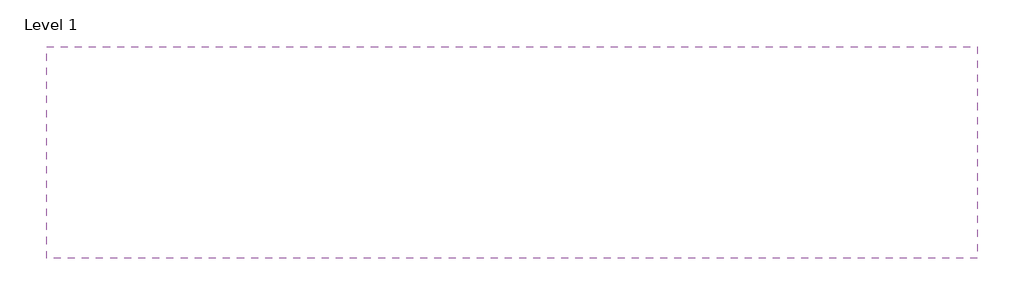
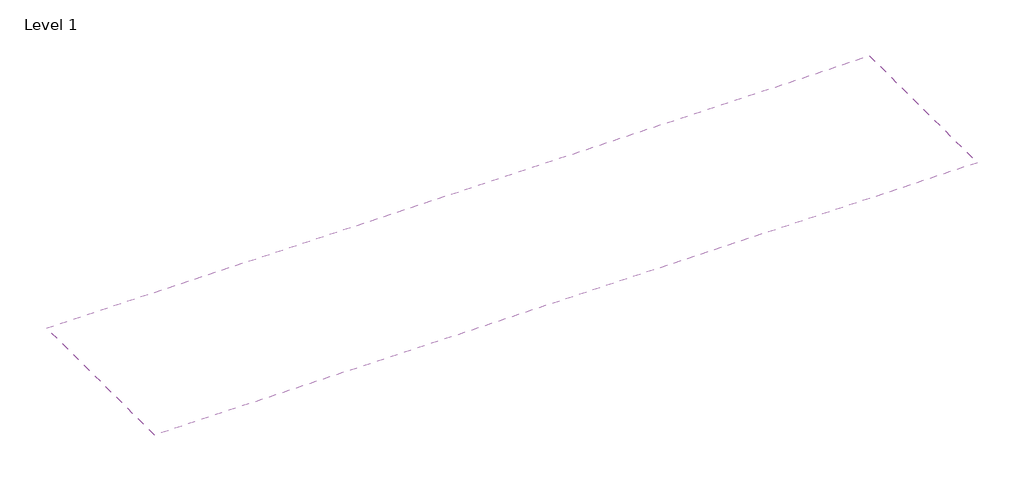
# One storey, incomplete: 1 covering.
"""IFC4 building model written with IfcOpenShell, lengths in millimetres."""

from ifc_helpers import new_model, si_unit, frame, origin, place, context, project, spatial, polyline, outline, extrude, element, save

model = new_model("IFC4")

# Units and contexts
model_context = context("Model", 3, world=origin())
ifc_project = project(units=[si_unit("LENGTHUNIT", "METRE", prefix="MILLI")], contexts=[model_context])

# Site, building, storey
site = spatial("IfcSite", under=ifc_project)
building = spatial("IfcBuilding", under=site)
storey = spatial("IfcBuildingStorey", under=building, Name="Level 1", Elevation=0.0)

# Covering
placement = place(None, origin())
element("IfcCovering", 1, ObjectType="600 x 1200mm Grid", at=placement, inside=storey, context=model_context, shape_type="SweptSolid", body=[
    extrude(outline(polyline([(-10080.883584, 6561.1087432), (-10080.883584, 5561.1087432), (-14480.883584, 5561.1087432), (-14480.883584, 6561.1087432), (-10080.883584, 6561.1087432)])), frame((0.0, 0.0, 2000.0), z_axis=(0.0, 0.0, 1.0), x_axis=(1.0, 0.0, 0.0)), (0.0, 0.0, 1.0), 52.0),
])

save(model, "model.ifc")
